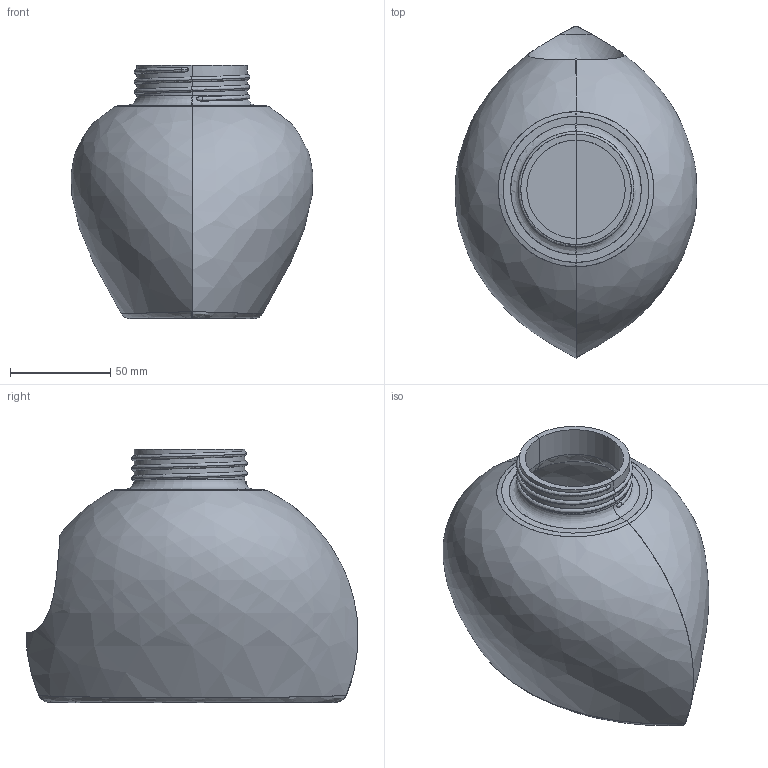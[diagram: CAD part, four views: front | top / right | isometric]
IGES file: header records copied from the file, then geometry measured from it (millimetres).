
Start section: START RECORD GO HERE.
Global section: file name: c1-Cano_Vazquez_Aitor-solucion-posible.igs; native system: IBM CATIA IGES - CATIA Version 5 Release 19 ; preprocessor: CATIA Version 5 Release 19 ; author: andres.garcia; organization: IQS; date: 20200131.143914; units: millimetre
Bounding box: 120.28 x 165.2 x 126 mm (x, y, z)
Surface area: 113117.8 mm2 (no closed solid volume)
Topology: 0 solids, 0 shells, 54 faces, 252 edges, 248 vertices
Faces by surface type: bspline 32, revolution 16, plane 6
